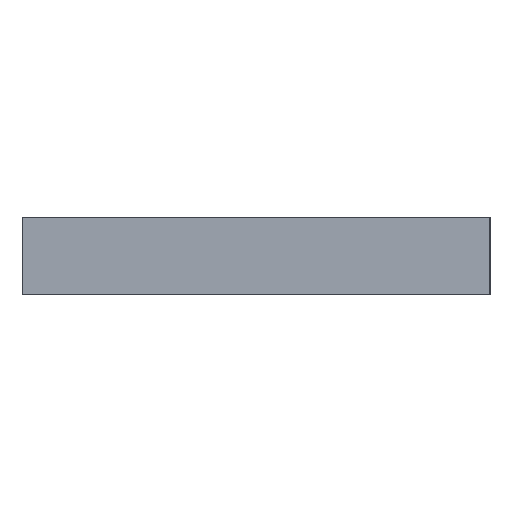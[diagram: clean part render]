
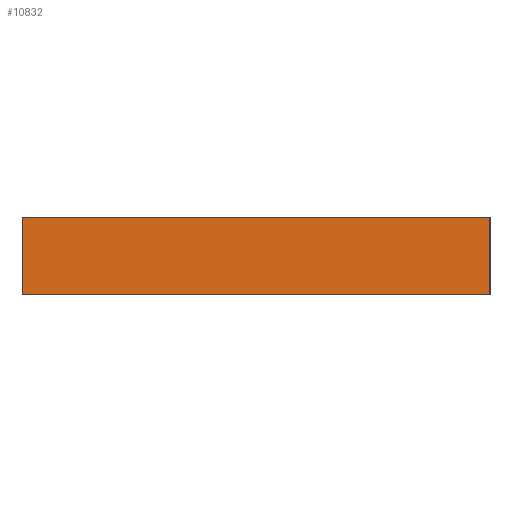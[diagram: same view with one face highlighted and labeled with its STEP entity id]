
A CAD part, left-side view. The second image highlights one B-rep face of the part: STEP entity #10832.
In plain terms, the highlighted planar face has unit normal (-1, 0, 0).
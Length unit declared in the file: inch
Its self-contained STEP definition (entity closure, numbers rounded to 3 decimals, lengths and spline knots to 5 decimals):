
#705=DIRECTION('',(0.,0.,1.));
#706=VECTOR('',#705,0.099);
#707=CARTESIAN_POINT('',(-1.0995,-0.3,-0.0495));
#708=LINE('',#707,#706);
#997=DIRECTION('',(0.,1.,0.));
#998=VECTOR('',#997,0.6);
#999=CARTESIAN_POINT('',(-1.0995,-0.3,0.0495));
#1000=LINE('',#999,#998);
#1717=DIRECTION('',(0.,1.,0.));
#1718=VECTOR('',#1717,0.6);
#1719=CARTESIAN_POINT('',(-1.0995,-0.3,-0.0495));
#1720=LINE('',#1719,#1718);
#1721=DIRECTION('',(0.,0.,1.));
#1722=VECTOR('',#1721,0.099);
#1723=CARTESIAN_POINT('',(-1.0995,0.3,-0.0495));
#1724=LINE('',#1723,#1722);
#7477=CARTESIAN_POINT('',(-1.0995,-0.3,-0.0495));
#7478=CARTESIAN_POINT('',(-1.0995,-0.3,0.0495));
#7479=VERTEX_POINT('',#7477);
#7480=VERTEX_POINT('',#7478);
#7485=CARTESIAN_POINT('',(-1.0995,0.3,-0.0495));
#7486=CARTESIAN_POINT('',(-1.0995,0.3,0.0495));
#7487=VERTEX_POINT('',#7485);
#7488=VERTEX_POINT('',#7486);
#10820=CARTESIAN_POINT('',(-1.0995,-0.3,-0.0495));
#10821=DIRECTION('',(-1.,0.,0.));
#10822=DIRECTION('',(0.,0.,1.));
#10823=AXIS2_PLACEMENT_3D('',#10820,#10821,#10822);
#10824=PLANE('',#10823);
#10825=ORIENTED_EDGE('',*,*,#10150,.F.);
#10826=ORIENTED_EDGE('',*,*,#10187,.T.);
#10828=ORIENTED_EDGE('',*,*,#10827,.T.);
#10829=ORIENTED_EDGE('',*,*,#10364,.F.);
#10830=EDGE_LOOP('',(#10825,#10826,#10828,#10829));
#10831=FACE_OUTER_BOUND('',#10830,.F.);
#10832=ADVANCED_FACE('',(#10831),#10824,.T.);
#10150=EDGE_CURVE('',#7479,#7480,#708,.T.);
#10187=EDGE_CURVE('',#7479,#7487,#1720,.T.);
#10364=EDGE_CURVE('',#7480,#7488,#1000,.T.);
#10827=EDGE_CURVE('',#7487,#7488,#1724,.T.);
